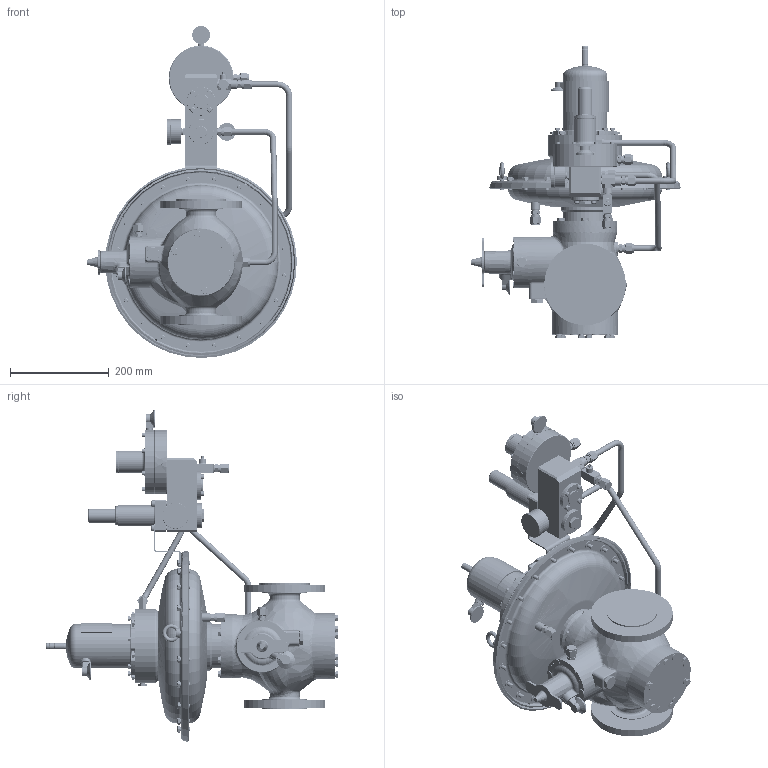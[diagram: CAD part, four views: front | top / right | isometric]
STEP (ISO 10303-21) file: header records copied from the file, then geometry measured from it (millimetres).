
FILE_DESCRIPTION((''),'2;1');
FILE_NAME('ASM0003_SW0001','2018-10-03T',('jjunior'),(''),'PRO/ENGINEER BY PARAMETRIC TECHNOLOGY CORPORATION, 2010160','PRO/ENGINEER BY PARAMETRIC TECHNOLOGY CORPORATION, 2010160','');
FILE_SCHEMA(('CONFIG_CONTROL_DESIGN'));
Products named in the file (1): ASM0003_SW0001
Bounding box: 423.77 x 590.15 x 670.92 mm (x, y, z)
Volume: 5620526.1 mm3; surface area: 1569092.9 mm2
Topology: 2 solids, 5 shells, 4008 faces, 9476 edges, 5827 vertices
Faces by surface type: plane 1318, cylinder 1112, cone 848, torus 444, bspline 248, sphere 35, extrusion 3
Entity records: 139579 total; most frequent: CARTESIAN_POINT 48770, DIRECTION 19176, ORIENTED_EDGE 18804, EDGE_CURVE 9402, AXIS2_PLACEMENT_3D 7900, VERTEX_POINT 5825, EDGE_LOOP 4535, CIRCLE 4143
